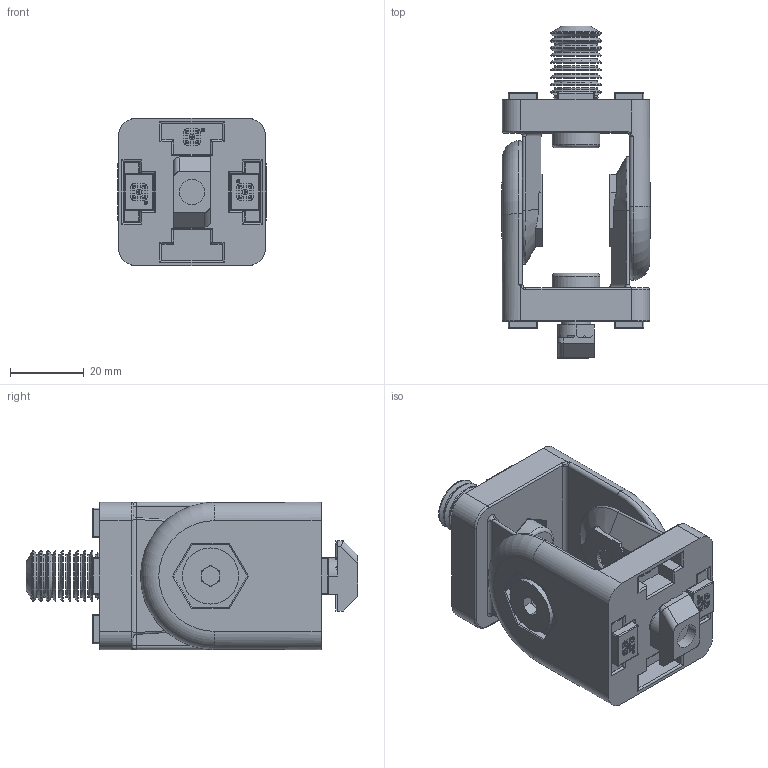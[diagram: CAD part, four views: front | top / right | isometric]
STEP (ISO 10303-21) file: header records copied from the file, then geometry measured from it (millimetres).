
FILE_DESCRIPTION(/* description */ ('STEP AP203'),/* implementation_level */ '2;1');
FILE_NAME(/* name */ 'C:\Users\Stefan.Nesic\Desktop\01010STEP\000Verifica\CORRETTI\JM40-40C.stp',/* time_stamp */ '2022-07-11T16:34:40+02:00',/* author */ ('USER'),/* organization */ ('Microsoft'),/* preprocessor_version */ 'ST-DEVELOPER v18.1',/* originating_system */ 'Autodesk Inventor 2021',/* authorisation */ '');
FILE_SCHEMA (('AUTOMOTIVE_DESIGN { 1 0 10303 214 3 1 1 }'));
Length unit declared in the file: millimetre
Products named in the file (1): JM40-40C
Bounding box: 40.32 x 90 x 40 mm (x, y, z)
Surface area: 25648 mm2 (no closed solid volume)
Topology: 0 solids, 40 shells, 889 faces, 3490 edges, 2475 vertices
Faces by surface type: plane 491, cylinder 295, cone 32, torus 29, sphere 24, bspline 18
Full cylindrical faces by diameter (mm): 0.694 x7, 0.867 x7, 6.6 x2, 6.8 x1, 8 x3, 13 x2, 14 x9, 15.24 x2
Entity records: 39348 total; most frequent: CARTESIAN_POINT 10628, DIRECTION 5985, ORIENTED_EDGE 5281, EDGE_CURVE 3460, VERTEX_POINT 2475, LINE 2405, VECTOR 2405, AXIS2_PLACEMENT_3D 1790
